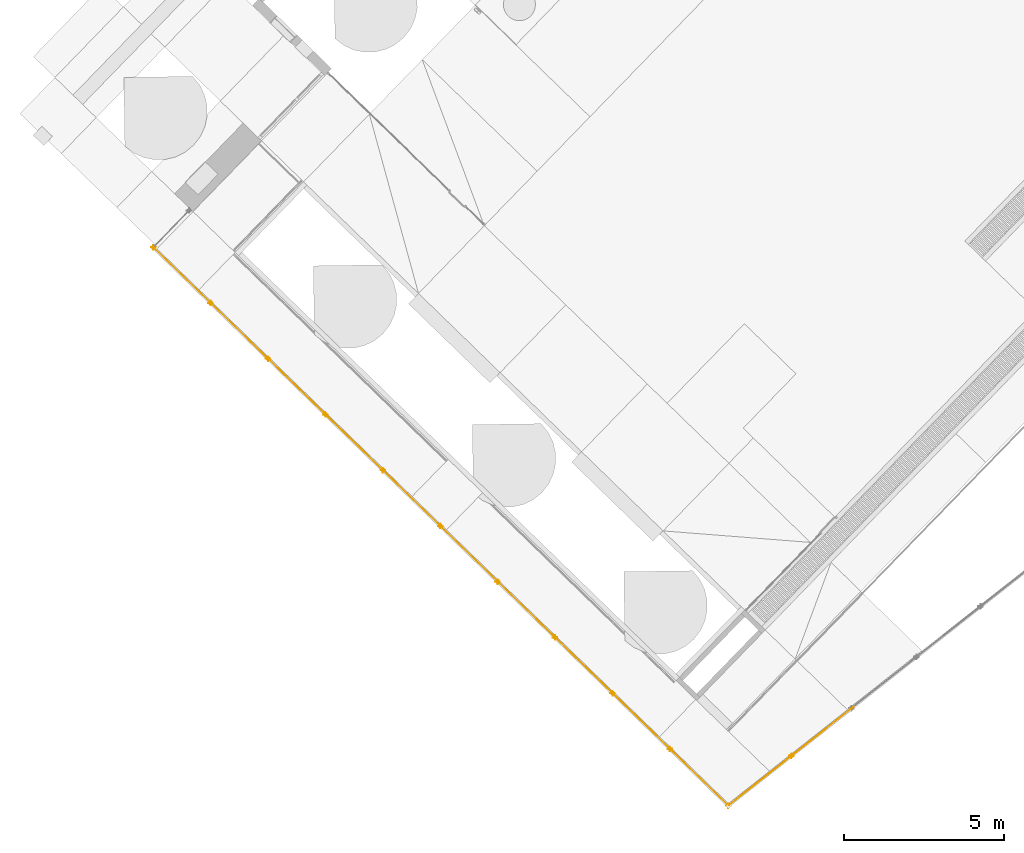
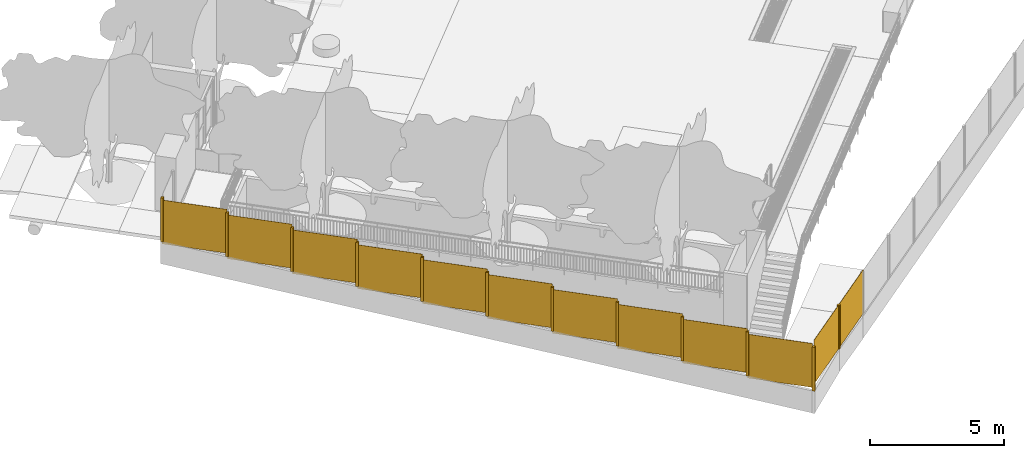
# One storey, part 24 of 37: 2 railings.
"""IFC2X3 building model written with IfcOpenShell, lengths in centimetres."""

from ifc_helpers import new_model, entity, si_unit, converted_unit, derived_unit, direction, frame, frame_2d, origin, place, context, subcontext, project, spatial, rectangle, extrude, material, material_list, element, save


model = new_model("IFC2X3")

# Units and contexts
model_context = context("Model", 3, precision=0.001, world=origin(), true_north=direction((0.717475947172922, 0.696583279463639)))
body_context = subcontext(model_context, "Body", "Model", "MODEL_VIEW")
ifc_project = project(units=[si_unit("LENGTHUNIT", "METRE", prefix="CENTI"), si_unit("AREAUNIT", "SQUARE_METRE"), si_unit("VOLUMEUNIT", "CUBIC_METRE"), converted_unit("PLANEANGLEUNIT", "DEGREE", entity("IfcRatioMeasure", 0.0174532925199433), si_unit("PLANEANGLEUNIT", "RADIAN"), dimensions=[0, 0, 0, 0, 0, 0, 0]), si_unit("MASSUNIT", "GRAM", prefix="KILO"), derived_unit("MASSDENSITYUNIT", [(si_unit("MASSUNIT", "GRAM", prefix="KILO"), 1), (si_unit("LENGTHUNIT", "METRE"), -3)]), si_unit("TIMEUNIT", "SECOND"), si_unit("FREQUENCYUNIT", "HERTZ"), si_unit("THERMODYNAMICTEMPERATUREUNIT", "DEGREE_CELSIUS"), derived_unit("THERMALTRANSMITTANCEUNIT", [(si_unit("MASSUNIT", "GRAM", prefix="KILO"), 1), (si_unit("THERMODYNAMICTEMPERATUREUNIT", "KELVIN"), -1), (si_unit("TIMEUNIT", "SECOND"), -3)]), derived_unit("VOLUMETRICFLOWRATEUNIT", [(si_unit("LENGTHUNIT", "METRE"), 3), (si_unit("TIMEUNIT", "SECOND"), -1)]), si_unit("ELECTRICCURRENTUNIT", "AMPERE"), si_unit("ELECTRICVOLTAGEUNIT", "VOLT"), si_unit("POWERUNIT", "WATT"), si_unit("FORCEUNIT", "NEWTON", prefix="KILO"), si_unit("ILLUMINANCEUNIT", "LUX"), si_unit("LUMINOUSFLUXUNIT", "LUMEN"), si_unit("LUMINOUSINTENSITYUNIT", "CANDELA"), derived_unit("USERDEFINED", [(si_unit("MASSUNIT", "GRAM", prefix="KILO"), -1), (si_unit("LENGTHUNIT", "METRE"), -2), (si_unit("TIMEUNIT", "SECOND"), 3), (si_unit("LUMINOUSFLUXUNIT", "LUMEN"), 1)]), derived_unit("LINEARVELOCITYUNIT", [(si_unit("LENGTHUNIT", "METRE"), 1), (si_unit("TIMEUNIT", "SECOND"), -1)]), si_unit("PRESSUREUNIT", "PASCAL"), derived_unit("USERDEFINED", [(si_unit("LENGTHUNIT", "METRE"), -2), (si_unit("MASSUNIT", "GRAM", prefix="KILO"), 1), (si_unit("TIMEUNIT", "SECOND"), -2)])], contexts=[model_context])

# Site, building, storey
site_placement = place(None, frame((0.0, 0.0, 0.0), z_axis=(0.0, 0.0, 1.0), x_axis=(0.696583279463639, 0.717475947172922, 0.0)))
site = spatial("IfcSite", under=ifc_project, at=site_placement, Name="Surface", CompositionType="ELEMENT")
building_placement = place(site_placement, origin())
building = spatial("IfcBuilding", under=site, at=building_placement, CompositionType="ELEMENT")
storey_placement = place(building_placement, origin())
storey = spatial("IfcBuildingStorey", under=building, at=storey_placement, Name="Nivel 0.00", CompositionType="ELEMENT", Elevation=0.0)

# Railings
ifc_material_1 = material(Name="REJA_MALLA_ACMA")
ifc_material_2 = material(Name="Aluminum")
ifc_material_list_1 = material_list([ifc_material_1, ifc_material_2])
railing_1_placement = place(storey_placement, origin())
element("IfcRailing", 1, at=railing_1_placement, inside=storey, material=ifc_material_list_1, Name="Railing:REJA_PERIMETRAL_2000mm", ObjectType="Railing:REJA_PERIMETRAL_2000mm", PredefinedType="NOTDEFINED", context=body_context, shape_type="SweptSolid", body=[
    extrude(rectangle(XDim=0.999999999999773, YDim=250.0, at=frame_2d((-2.16604512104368e-13, 0.0), x_axis=(1.0, 0.0))), frame((-2380.82805205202, -1605.47635436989, -98.6023123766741), z_axis=(0.0, 0.0, 1.0), x_axis=(-1.0, 0.0, 0.0)), (0.0, 0.0, 1.0), 200.0),
    extrude(rectangle(XDim=9.99999999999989, YDim=10.0000000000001, at=frame_2d((2.16715534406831e-13, -1.08357767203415e-13), x_axis=(1.0, 0.0))), frame((-2380.82805205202, -1480.27635436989, -86.0752442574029), z_axis=(0.0, 0.0, 1.0), x_axis=(-1.0, 0.0, 0.0)), (0.0, 0.0, 1.0), 200.0),
    extrude(rectangle(XDim=0.999999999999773, YDim=250.0, at=frame_2d((2.16604512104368e-13, 0.0), x_axis=(1.0, 0.0))), frame((-2380.82805205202, -1355.07635436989, -73.5481761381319), z_axis=(0.0, 0.0, 1.0), x_axis=(-1.0, 0.0, 0.0)), (0.0, 0.0, 1.0), 200.0),
    extrude(rectangle(XDim=9.99999999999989, YDim=10.0000000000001, at=frame_2d((-2.16715534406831e-13, 1.08357767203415e-13), x_axis=(1.0, 0.0))), frame((-2380.82805205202, -1229.87635436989, -61.0211080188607), z_axis=(0.0, 0.0, 1.0), x_axis=(-1.0, 0.0, 0.0)), (0.0, 0.0, 1.0), 200.0),
    extrude(rectangle(XDim=0.999999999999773, YDim=250.0, at=frame_2d((-2.16604512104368e-13, 0.0), x_axis=(1.0, 0.0))), frame((-2380.82805205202, -1104.67635436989, -48.4940398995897), z_axis=(0.0, 0.0, 1.0), x_axis=(-1.0, 0.0, 0.0)), (0.0, 0.0, 1.0), 200.0),
    extrude(rectangle(XDim=9.99999999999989, YDim=10.0000000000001, at=frame_2d((2.16715534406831e-13, 0.0), x_axis=(1.0, 0.0))), frame((-2380.82805205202, -979.476354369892, -35.9669717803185), z_axis=(0.0, 0.0, 1.0), x_axis=(-1.0, 0.0, 0.0)), (0.0, 0.0, 1.0), 200.0),
    extrude(rectangle(XDim=0.999999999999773, YDim=250.0, at=frame_2d((-2.16604512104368e-13, 0.0), x_axis=(1.0, 0.0))), frame((-2380.82805205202, -854.276354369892, -23.4399036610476), z_axis=(0.0, 0.0, 1.0), x_axis=(-1.0, 0.0, 0.0)), (0.0, 0.0, 1.0), 200.0),
    extrude(rectangle(XDim=9.99999999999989, YDim=10.0, at=frame_2d((-2.16715534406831e-13, 5.41788836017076e-14), x_axis=(1.0, 0.0))), frame((-2380.82805205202, -729.076354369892, -10.9128355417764), z_axis=(0.0, 0.0, 1.0), x_axis=(-1.0, 0.0, 0.0)), (0.0, 0.0, 1.0), 200.0),
    extrude(rectangle(XDim=0.999999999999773, YDim=250.0, at=frame_2d((-2.16604512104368e-13, -2.1316282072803e-14), x_axis=(1.0, 0.0))), frame((-2380.82805205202, -603.876354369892, 1.61423257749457), z_axis=(0.0, 0.0, 1.0), x_axis=(-1.0, 0.0, 0.0)), (0.0, 0.0, 1.0), 200.0),
    extrude(rectangle(XDim=9.99999999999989, YDim=10.0, at=frame_2d((2.16715534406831e-13, 0.0), x_axis=(1.0, 0.0))), frame((-2380.82805205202, -478.676354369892, 14.1413006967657), z_axis=(0.0, 0.0, 1.0), x_axis=(-1.0, 0.0, 0.0)), (0.0, 0.0, 1.0), 200.0),
    extrude(rectangle(XDim=0.999999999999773, YDim=250.0, at=frame_2d((2.16604512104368e-13, -2.1316282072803e-14), x_axis=(1.0, 0.0))), frame((-2380.82805205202, -353.476354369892, 26.6683688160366), z_axis=(0.0, 0.0, 1.0), x_axis=(-1.0, 0.0, 0.0)), (0.0, 0.0, 1.0), 200.0),
    extrude(rectangle(XDim=9.99999999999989, YDim=10.0, at=frame_2d((2.16715534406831e-13, -1.33226762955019e-14), x_axis=(1.0, 0.0))), frame((-2380.82805205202, -228.276354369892, 39.1954369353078), z_axis=(0.0, 0.0, 1.0), x_axis=(-1.0, 0.0, 0.0)), (0.0, 0.0, 1.0), 200.0),
    extrude(rectangle(XDim=0.999999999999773, YDim=250.0, at=frame_2d((-2.16604512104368e-13, 0.0), x_axis=(1.0, 0.0))), frame((-2380.82805205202, -103.076354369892, 51.7225050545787), z_axis=(0.0, 0.0, 1.0), x_axis=(-1.0, 0.0, 0.0)), (0.0, 0.0, 1.0), 200.0),
    extrude(rectangle(XDim=9.99999999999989, YDim=10.0, at=frame_2d((-2.16715534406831e-13, 1.77635683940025e-15), x_axis=(1.0, 0.0))), frame((-2380.82805205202, 22.123645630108, 64.2495731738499), z_axis=(0.0, 0.0, 1.0), x_axis=(-1.0, 0.0, 0.0)), (0.0, 0.0, 1.0), 200.0),
    extrude(rectangle(XDim=0.999999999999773, YDim=250.0, at=frame_2d((-2.16604512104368e-13, 7.105427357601e-15), x_axis=(1.0, 0.0))), frame((-2380.82805205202, 147.323645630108, 76.7766412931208), z_axis=(0.0, 0.0, 1.0), x_axis=(-1.0, 0.0, 0.0)), (0.0, 0.0, 1.0), 200.0),
    extrude(rectangle(XDim=9.99999999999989, YDim=10.0, at=frame_2d((2.16715534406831e-13, 0.0), x_axis=(1.0, 0.0))), frame((-2380.82805205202, 272.523645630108, 89.3037094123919), z_axis=(0.0, 0.0, 1.0), x_axis=(-1.0, 0.0, 0.0)), (0.0, 0.0, 1.0), 200.0),
    extrude(rectangle(XDim=0.999999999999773, YDim=250.0, at=frame_2d((-2.16604512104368e-13, 0.0), x_axis=(1.0, 0.0))), frame((-2380.82805205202, 397.723645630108, 101.830777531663), z_axis=(0.0, 0.0, 1.0), x_axis=(-1.0, 0.0, 0.0)), (0.0, 0.0, 1.0), 200.0),
    extrude(rectangle(XDim=9.99999999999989, YDim=10.0, at=frame_2d((-2.16715534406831e-13, -5.41788836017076e-14), x_axis=(1.0, 0.0))), frame((-2380.82805205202, 522.923645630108, 114.357845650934), z_axis=(0.0, 0.0, 1.0), x_axis=(-1.0, 0.0, 0.0)), (0.0, 0.0, 1.0), 200.0),
    extrude(rectangle(XDim=0.999999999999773, YDim=250.0, at=frame_2d((2.16604512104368e-13, 4.9737991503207e-14), x_axis=(1.0, 0.0))), frame((-2380.82805205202, 648.123645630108, 126.884913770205), z_axis=(0.0, 0.0, 1.0), x_axis=(-1.0, 0.0, 0.0)), (0.0, 0.0, 1.0), 200.0),
    extrude(rectangle(XDim=9.99999999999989, YDim=10.0000000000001, at=frame_2d((-2.16715534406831e-13, 1.08357767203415e-13), x_axis=(1.0, 0.0))), frame((-2380.82805205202, -1735.67635436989, -111.629662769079), z_axis=(0.0, 0.0, 1.0), x_axis=(-1.0, 0.0, 0.0)), (0.0, 0.0, 1.0), 200.0),
    extrude(rectangle(XDim=9.99999999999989, YDim=10.0, at=frame_2d((2.16715534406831e-13, -5.41788836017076e-14), x_axis=(1.0, 0.0))), frame((-2380.82805205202, 773.323645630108, 139.411981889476), z_axis=(0.0, 0.0, 1.0), x_axis=(-1.0, 0.0, 0.0)), (0.0, 0.0, 1.0), 200.0),
])
ifc_material_list_2 = material_list([ifc_material_1, ifc_material_2])
railing_2_placement = place(storey_placement, origin())
element("IfcRailing", 2, at=railing_2_placement, inside=storey, material=ifc_material_list_2, Name="Railing:REJA_PERIMETRAL_S-PILAR_2000mm", ObjectType="Railing:REJA_PERIMETRAL_S-PILAR_2000mm", PredefinedType="NOTDEFINED", context=body_context, shape_type="SweptSolid", body=[
    extrude(rectangle(XDim=0.999999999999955, YDim=250.0, at=frame_2d((1.35447209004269e-14, -1.06581410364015e-13), x_axis=(1.0, 0.0))), frame((-2008.95181234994, -1784.60835174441, -85.0), z_axis=(0.0, 0.0, 1.0), x_axis=(-0.132203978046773, -0.99122253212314, 0.0)), (0.0, 0.0, 1.0), 200.0),
    extrude(rectangle(XDim=10.0, YDim=9.99999999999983, at=frame_2d((-1.86073378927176e-13, -2.42916797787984e-13), x_axis=(1.0, 0.0))), frame((-2131.24389225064, -1768.29768595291, -85.0), z_axis=(0.0, 0.0, 1.0), x_axis=(-0.132203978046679, -0.991222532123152, 0.0)), (0.0, 0.0, 1.0), 200.0),
    extrude(rectangle(XDim=0.999999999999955, YDim=250.0, at=frame_2d((-2.87547763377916e-14, 2.1316282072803e-13), x_axis=(1.0, 0.0))), frame((-2253.53597215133, -1751.9870201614, -85.0), z_axis=(0.0, 0.0, 1.0), x_axis=(-0.132203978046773, -0.99122253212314, 0.0)), (0.0, 0.0, 1.0), 200.0),
])

save(model, "model.ifc")
